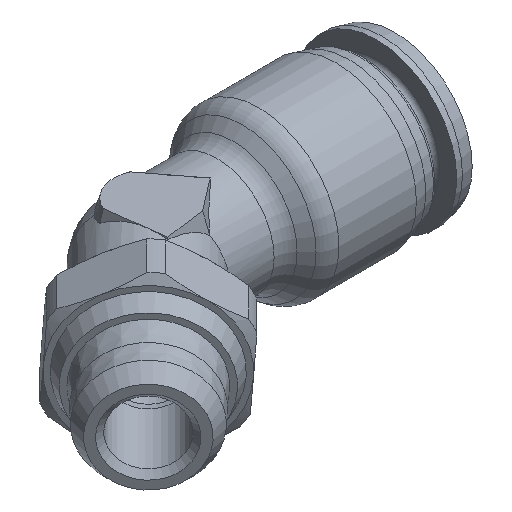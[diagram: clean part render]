
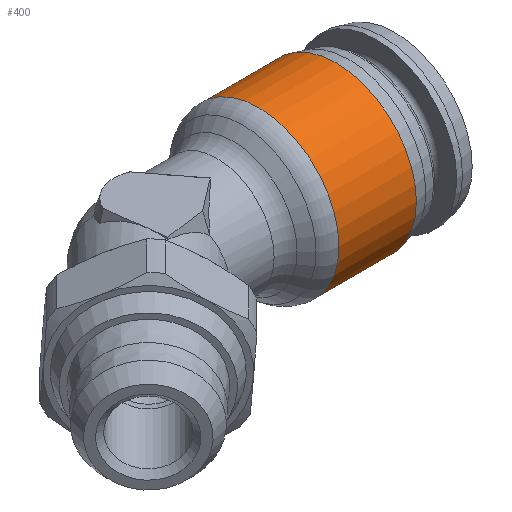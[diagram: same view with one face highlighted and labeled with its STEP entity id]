
A CAD part, isometric view. The second image highlights one B-rep face of the part: STEP entity #400.
In plain terms, the highlighted cylindrical face has radius 7 mm (diameter 14 mm), a full revolution.
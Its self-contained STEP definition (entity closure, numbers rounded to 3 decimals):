
#400 = ADVANCED_FACE ( 'NONE', ( #2963, #2955 ), #2939, .T. ) ;
#1692 = CIRCLE ( 'NONE', #4230, 7. ) ;
#1695 = CIRCLE ( 'NONE', #4229, 7. ) ;
#1915 = VERTEX_POINT ( 'NONE', #12473 ) ;
#2003 = VERTEX_POINT ( 'NONE', #12472 ) ;
#2939 = CYLINDRICAL_SURFACE ( 'NONE', #8036, 7. ) ;
#2955 = FACE_OUTER_BOUND ( 'NONE', #3612, .T. ) ;
#2963 = FACE_OUTER_BOUND ( 'NONE', #3620, .T. ) ;
#3612 = EDGE_LOOP ( 'NONE', ( #12608 ) ) ;
#3620 = EDGE_LOOP ( 'NONE', ( #12708 ) ) ;
#4229 = AXIS2_PLACEMENT_3D ( 'NONE', #6773, #6774, #6775 ) ;
#4230 = AXIS2_PLACEMENT_3D ( 'NONE', #6769, #6770, #6771 ) ;
#6769 = CARTESIAN_POINT ( 'NONE',  ( 9.628, 0., 0. ) ) ;
#6770 = DIRECTION ( 'NONE',  ( -1., 0., 0. ) ) ;
#6771 = DIRECTION ( 'NONE',  ( 0., 0., 1. ) ) ;
#6773 = CARTESIAN_POINT ( 'NONE',  ( 16.38, 0., 0. ) ) ;
#6774 = DIRECTION ( 'NONE',  ( -1., 0., 0. ) ) ;
#6775 = DIRECTION ( 'NONE',  ( 0., 0., 1. ) ) ;
#8036 = AXIS2_PLACEMENT_3D ( 'NONE', #11606, #11605, #11598 ) ;
#8147 = EDGE_CURVE ( 'NONE', #2003, #2003, #1692, .T. ) ;
#8149 = EDGE_CURVE ( 'NONE', #1915, #1915, #1695, .T. ) ;
#11598 = DIRECTION ( 'NONE',  ( 0., 0., 1. ) ) ;
#11605 = DIRECTION ( 'NONE',  ( -1., 0., 0. ) ) ;
#11606 = CARTESIAN_POINT ( 'NONE',  ( 0., 0., 0. ) ) ;
#12472 = CARTESIAN_POINT ( 'NONE',  ( 9.628, 0., 7. ) ) ;
#12473 = CARTESIAN_POINT ( 'NONE',  ( 16.38, 0., 7. ) ) ;
#12608 = ORIENTED_EDGE ( 'NONE', *, *, #8149, .T. ) ;
#12708 = ORIENTED_EDGE ( 'NONE', *, *, #8147, .F. ) ;
